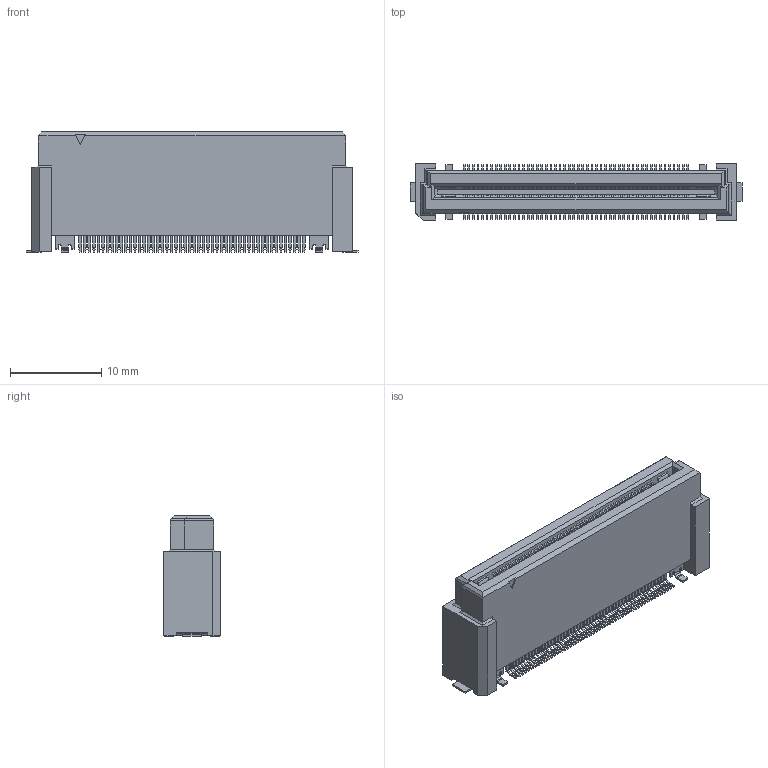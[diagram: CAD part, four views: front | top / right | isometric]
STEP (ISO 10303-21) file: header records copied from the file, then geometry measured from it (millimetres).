
FILE_DESCRIPTION(('Creo Elements/Direct Modeling STEP Export'),'2;1');
FILE_NAME('P3E816_DT10E-100S-15-T.stp','2024-03-13T11:47:06',(''),(''),'Creo Elements/Direct Modeling STEP processor for AP214 (Solid Model)','Creo Elements/Direct Modeling 20.6 25-Mar-2023 (C) Parametric Technology GmbH','');
FILE_SCHEMA(('AUTOMOTIVE_DESIGN { 1 0 10303 214 1 1 1 1 }'));
Products named in the file (2): P3E816_DT10E-100S-15-T
Assembly tree (1 placements, depth 2):
  P3E816_DT10E-100S-15-T
    P3E816_DT10E-100S-15-T
Bounding box: 36.4 x 6.2 x 13.18 mm (x, y, z)
Volume: 1803.9 mm3; surface area: 1917.7 mm2
Topology: 1 solids, 1 shells, 3195 faces, 9018 edges, 5932 vertices
Faces by surface type: plane 2527, cylinder 660, bspline 8
Entity records: 102369 total; most frequent: CARTESIAN_POINT 18727, ORIENTED_EDGE 18036, DIRECTION 16584, EDGE_CURVE 9018, VECTOR 7182, LINE 7182, VERTEX_POINT 5932, AXIS2_PLACEMENT_3D 4701
